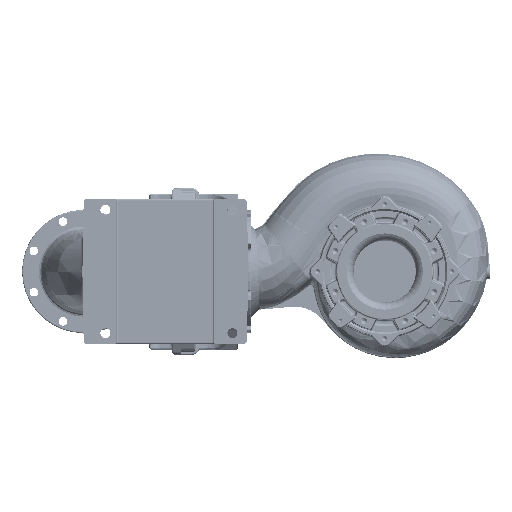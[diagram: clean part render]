
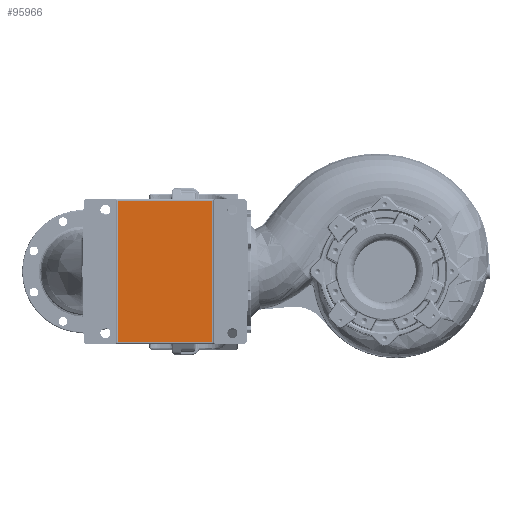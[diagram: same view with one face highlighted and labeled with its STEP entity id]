
A CAD part, front view. The second image highlights one B-rep face of the part: STEP entity #95966.
In plain terms, the highlighted planar face has unit normal (0, -1, 0).
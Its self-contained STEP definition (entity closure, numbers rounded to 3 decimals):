
#5212 = ORIENTED_EDGE ( 'NONE', *, *, #213705, .T. ) ;
#18205 = CARTESIAN_POINT ( 'NONE',  ( 130., -540., 195. ) ) ;
#25347 = VERTEX_POINT ( 'NONE', #163952 ) ;
#26964 = VERTEX_POINT ( 'NONE', #196114 ) ;
#35063 = CARTESIAN_POINT ( 'NONE',  ( -130., -540., -200. ) ) ;
#39681 = LINE ( 'NONE', #118409, #40145 ) ;
#40145 = VECTOR ( 'NONE', #83694, 1000. ) ;
#41825 = CARTESIAN_POINT ( 'NONE',  ( -135., -540., -230. ) ) ;
#52073 = CARTESIAN_POINT ( 'NONE',  ( 135., -540., -195. ) ) ;
#60106 = ORIENTED_EDGE ( 'NONE', *, *, #115493, .T. ) ;
#60453 = DIRECTION ( 'NONE',  ( 0., 0., 1. ) ) ;
#83694 = DIRECTION ( 'NONE',  ( -1., 0., 0. ) ) ;
#95966 = ADVANCED_FACE ( 'NONE', ( #222150 ), #226278, .F. ) ;
#107350 = VERTEX_POINT ( 'NONE', #140773 ) ;
#111219 = EDGE_LOOP ( 'NONE', ( #168577, #195008, #5212, #60106 ) ) ;
#115493 = EDGE_CURVE ( 'NONE', #107350, #25347, #206475, .T. ) ;
#118409 = CARTESIAN_POINT ( 'NONE',  ( -135., -540., 195. ) ) ;
#140773 = CARTESIAN_POINT ( 'NONE',  ( -130., -540., 195. ) ) ;
#144496 = VECTOR ( 'NONE', #200668, 1000. ) ;
#145621 = LINE ( 'NONE', #52073, #144496 ) ;
#162615 = VECTOR ( 'NONE', #228259, 1000. ) ;
#163952 = CARTESIAN_POINT ( 'NONE',  ( -130., -540., -195. ) ) ;
#164021 = LINE ( 'NONE', #209499, #162615 ) ;
#168577 = ORIENTED_EDGE ( 'NONE', *, *, #221580, .T. ) ;
#171722 = DIRECTION ( 'NONE',  ( 0., 1., 0. ) ) ;
#175334 = AXIS2_PLACEMENT_3D ( 'NONE', #41825, #171722, #60453 ) ;
#195008 = ORIENTED_EDGE ( 'NONE', *, *, #220587, .T. ) ;
#196114 = CARTESIAN_POINT ( 'NONE',  ( 130., -540., -195. ) ) ;
#200668 = DIRECTION ( 'NONE',  ( 1., 0., 0. ) ) ;
#204661 = VECTOR ( 'NONE', #239936, 1000. ) ;
#206475 = LINE ( 'NONE', #35063, #204661 ) ;
#209499 = CARTESIAN_POINT ( 'NONE',  ( 130., -540., 200. ) ) ;
#213705 = EDGE_CURVE ( 'NONE', #237134, #107350, #39681, .T. ) ;
#220587 = EDGE_CURVE ( 'NONE', #26964, #237134, #164021, .T. ) ;
#221580 = EDGE_CURVE ( 'NONE', #25347, #26964, #145621, .T. ) ;
#222150 = FACE_OUTER_BOUND ( 'NONE', #111219, .T. ) ;
#226278 = PLANE ( 'NONE',  #175334 ) ;
#228259 = DIRECTION ( 'NONE',  ( 0., 0., 1. ) ) ;
#237134 = VERTEX_POINT ( 'NONE', #18205 ) ;
#239936 = DIRECTION ( 'NONE',  ( 0., 0., -1. ) ) ;
